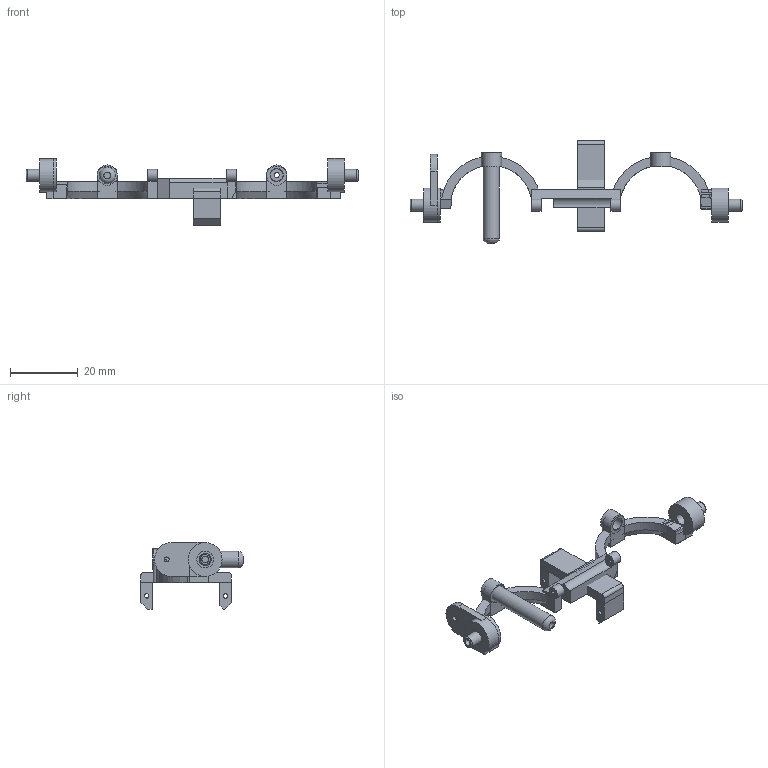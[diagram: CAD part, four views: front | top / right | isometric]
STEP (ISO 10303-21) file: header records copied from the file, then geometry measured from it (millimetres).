
FILE_DESCRIPTION(/* description */ ('','CAx-IF Rec.Pracs.---Representation and Presentation of Product Manufacturing Information (PMI)---4.0---2014-10-13'),/* implementation_level */ '2;1');
FILE_NAME(/* name */ 'Eyebox_20250308.step',/* time_stamp */ '2025-03-08T12:22:41Z',/* author */ (''),/* organization */ (''),/* preprocessor_version */ 'ST-DEVELOPER v20',/* originating_system */ 'Autodesk Translation Framework v13.20.0.188',/* authorisation */ '');
FILE_SCHEMA (('AP242_MANAGED_MODEL_BASED_3D_ENGINEERING_MIM_LF { 1 0 10303 442 1 1 4 }'));
Length unit declared in the file: millimetre
Products named in the file (1): Eyebox
Bounding box: 98 x 30.18 x 19.78 mm (x, y, z)
Volume: 5410.5 mm3; surface area: 6589.3 mm2
Topology: 32 solids, 35 shells, 466 faces, 1175 edges, 779 vertices
Faces by surface type: bspline 245, plane 157, cylinder 55, torus 8, cone 1
Full cylindrical faces by diameter (mm): 0.1 x2, 0.189 x2, 1.25 x2, 1.3 x2, 1.5 x2, 2 x5, 3.5 x3, 3.55 x4, 3.7 x1, 3.9 x2, 4.764 x1, 4.8 x1, 4.94 x2, 6 x2, 10 x3
Entity records: 16389 total; most frequent: CARTESIAN_POINT 6661, ORIENTED_EDGE 2348, DIRECTION 1273, EDGE_CURVE 1174, VERTEX_POINT 779, LINE 553, VECTOR 553, EDGE_LOOP 503
